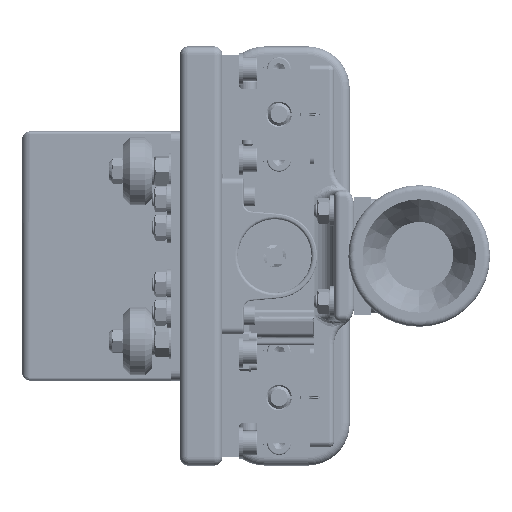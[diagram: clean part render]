
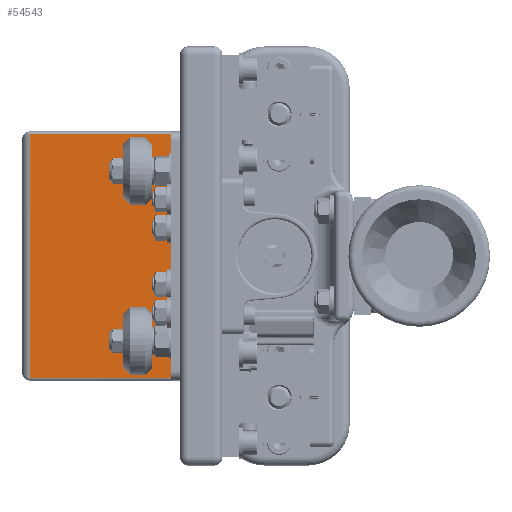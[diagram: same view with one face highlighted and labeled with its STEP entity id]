
A CAD part, front view. The second image highlights one B-rep face of the part: STEP entity #54543.
In plain terms, the highlighted planar face has unit normal (0, -1, 0).
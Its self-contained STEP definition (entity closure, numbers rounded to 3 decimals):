
#4693=PLANE('',#59141);
#6322=FACE_OUTER_BOUND('',#9591,.T.);
#9591=EDGE_LOOP('',(#39643,#39644,#39645,#39646,#39647,#39648));
#13117=LINE('',#119289,#16695);
#13202=LINE('',#119822,#16780);
#13205=LINE('',#119830,#16783);
#13225=LINE('',#119905,#16803);
#16695=VECTOR('',#66194,10.);
#16780=VECTOR('',#66671,10.);
#16783=VECTOR('',#66684,10.);
#16803=VECTOR('',#66756,10.);
#20034=CIRCLE('',#58834,3.);
#20207=CIRCLE('',#59142,3.);
#22918=VERTEX_POINT('',#118837);
#22919=VERTEX_POINT('',#118839);
#23024=VERTEX_POINT('',#119287);
#23107=VERTEX_POINT('',#119764);
#23109=VERTEX_POINT('',#119799);
#23145=VERTEX_POINT('',#119903);
#28926=EDGE_CURVE('',#22919,#22918,#20034,.T.);
#29060=EDGE_CURVE('',#23024,#22918,#13117,.T.);
#29250=EDGE_CURVE('',#23107,#23109,#13202,.T.);
#29255=EDGE_CURVE('',#22919,#23107,#13205,.T.);
#29290=EDGE_CURVE('',#23145,#23024,#20207,.F.);
#29291=EDGE_CURVE('',#23109,#23145,#13225,.T.);
#39643=ORIENTED_EDGE('',*,*,#29250,.F.);
#39644=ORIENTED_EDGE('',*,*,#29255,.F.);
#39645=ORIENTED_EDGE('',*,*,#28926,.T.);
#39646=ORIENTED_EDGE('',*,*,#29060,.F.);
#39647=ORIENTED_EDGE('',*,*,#29290,.F.);
#39648=ORIENTED_EDGE('',*,*,#29291,.F.);
#54543=ADVANCED_FACE('',(#6322),#4693,.F.);
#58834=AXIS2_PLACEMENT_3D('',#118840,#65966,#65967);
#59141=AXIS2_PLACEMENT_3D('',#119902,#66752,#66753);
#59142=AXIS2_PLACEMENT_3D('',#119904,#66754,#66755);
#65966=DIRECTION('center_axis',(0.,1.,0.));
#65967=DIRECTION('ref_axis',(-0.707,0.,-0.707));
#66194=DIRECTION('',(0.,0.,-1.));
#66671=DIRECTION('',(0.,0.,1.));
#66684=DIRECTION('',(-1.,0.,0.));
#66752=DIRECTION('center_axis',(0.,1.,0.));
#66753=DIRECTION('ref_axis',(0.,0.,1.));
#66754=DIRECTION('center_axis',(0.,1.,0.));
#66755=DIRECTION('ref_axis',(-0.707,0.,0.707));
#66756=DIRECTION('',(1.,0.,0.));
#118837=CARTESIAN_POINT('',(-5.,63.5,-41.));
#118839=CARTESIAN_POINT('',(-4.236,63.5,-43.));
#118840=CARTESIAN_POINT('Origin',(-2.,63.5,-41.));
#119287=CARTESIAN_POINT('',(-5.,63.5,41.));
#119289=CARTESIAN_POINT('',(-5.,63.5,-22.));
#119764=CARTESIAN_POINT('',(-57.725,63.5,-43.));
#119799=CARTESIAN_POINT('',(-57.725,63.5,43.));
#119822=CARTESIAN_POINT('',(-57.725,63.5,0.));
#119830=CARTESIAN_POINT('',(-1.5,63.5,-43.));
#119902=CARTESIAN_POINT('Origin',(-3.,63.5,0.));
#119903=CARTESIAN_POINT('',(-4.236,63.5,43.));
#119904=CARTESIAN_POINT('Origin',(-2.,63.5,41.));
#119905=CARTESIAN_POINT('',(-1.5,63.5,43.));
